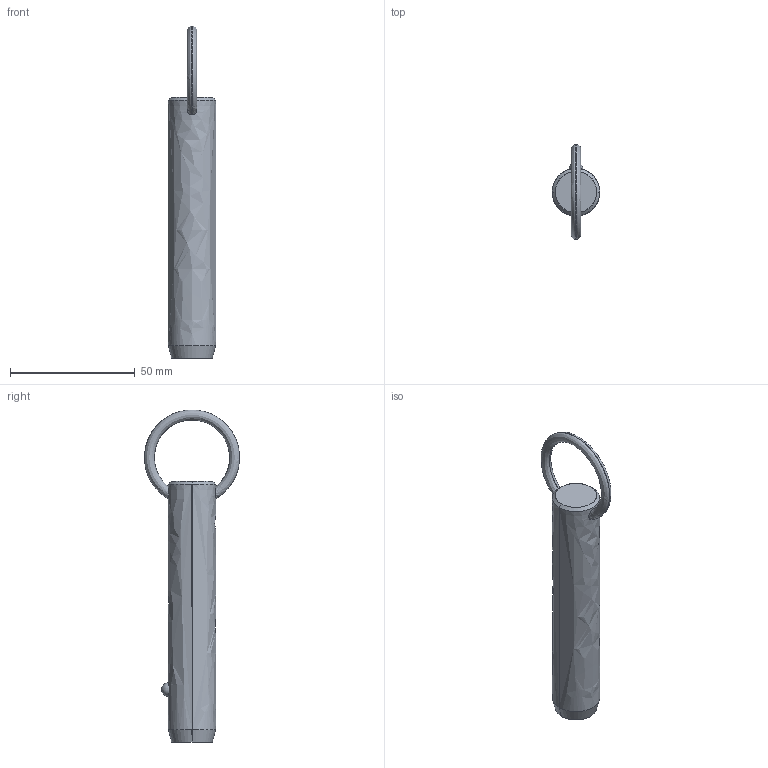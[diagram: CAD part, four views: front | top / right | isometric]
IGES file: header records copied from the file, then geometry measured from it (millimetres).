
Start section: SolidWorks IGES file using analytic representation for surfaces
Global section: file name: C:\Users\liam_\OneDrive\Documents\WORK\Work for WixRoyd\Job Files\J-00019 - Matt Davis CAD Checking\04. CAD Drawings\automotion20190605\P1250.2_v2\P1250.2_v2_20190729_IGES\P1250.075-280.igs; native system: SolidWorks 2017; preprocessor: SolidWorks 2017; author: liam_; date: 190729.235100; units: millimetre
Bounding box: 19 x 38.02 x 132.88 mm (x, y, z)
Surface area: 7758.5 mm2 (no closed solid volume)
Topology: 0 solids, 0 shells, 12 faces, 294 edges, 292 vertices
Faces by surface type: revolution 8, bspline 4
